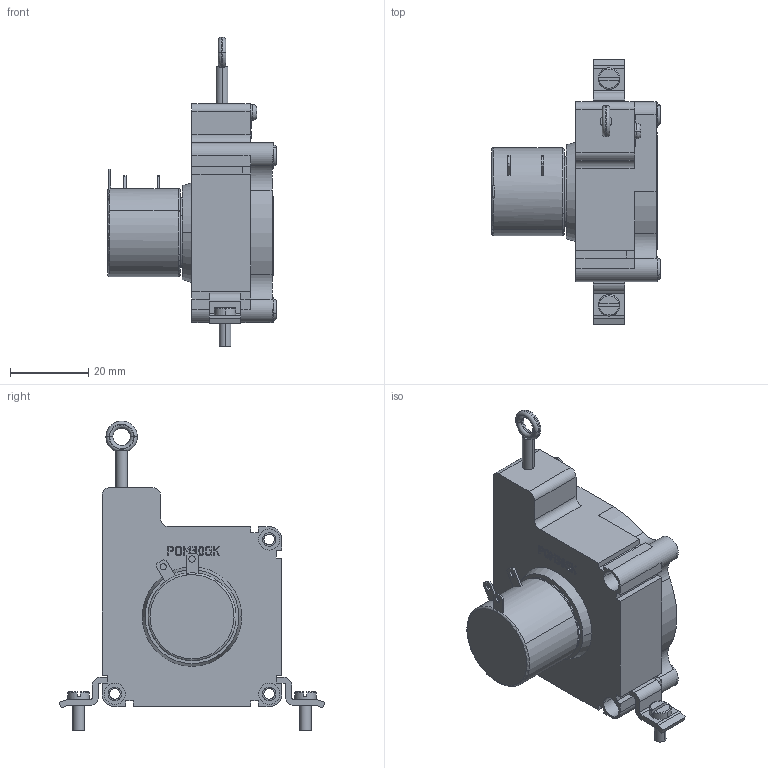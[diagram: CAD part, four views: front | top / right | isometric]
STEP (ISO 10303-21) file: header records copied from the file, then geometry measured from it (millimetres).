
FILE_DESCRIPTION((''),'2;1');
FILE_NAME('','2007-03-15T',(''),(''),'PRO/ENGINEER BY PARAMETRIC TECHNOLOGY CORPORATION, 2003250','PRO/ENGINEER BY PARAMETRIC TECHNOLOGY CORPORATION, 2003250','');
FILE_SCHEMA(('CONFIG_CONTROL_DESIGN'));
Length unit declared in the file: millimetre
Bounding box: 43.15 x 68 x 79.2 mm (x, y, z)
Volume: 26229.9 mm3; surface area: 21280.1 mm2
Topology: 1 solids, 11 shells, 807 faces, 2256 edges, 1507 vertices
Faces by surface type: plane 382, cylinder 233, extrusion 154, torus 30, cone 6, bspline 2
Entity records: 27942 total; most frequent: CARTESIAN_POINT 7039, ORIENTED_EDGE 4512, DIRECTION 4052, EDGE_CURVE 2256, VERTEX_POINT 1507, VECTOR 1360, AXIS2_PLACEMENT_3D 1346, LINE 1206
